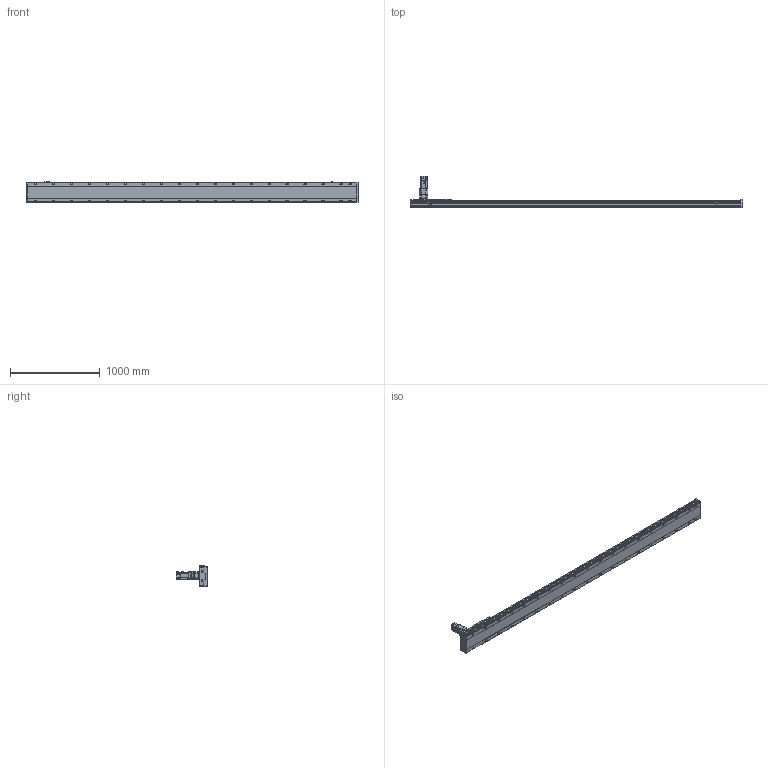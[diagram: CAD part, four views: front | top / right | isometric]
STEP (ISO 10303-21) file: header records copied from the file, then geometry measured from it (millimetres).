
FILE_DESCRIPTION(/* description */ ('STEP AP214'),/* implementation_level */ '2;1');
FILE_NAME(/* name */ 'SHS22A-L13-S3200-BC-T75-C1-N(0)',/* time_stamp */ '2022-06-15T02:28:01+02:00',/* author */ ('License CC BY-ND 4.0'),/* organization */ ('CADENAS'),/* preprocessor_version */ 'ST-DEVELOPER v18.102',/* originating_system */ 'PARTsolutions',/* authorisation */ ' ');
FILE_SCHEMA (('AUTOMOTIVE_DESIGN {1 0 10303 214 3 1 1}'));
Length unit declared in the file: millimetre
Products named in the file (7): SHS22A-L13-S3200-BC-T75-C1-N(0); PSC140-sensor; SHS22A-S3200_body2; T75-p1; SHS22A-S3200_body3; SHS22A-S3200_slider; SHS22A-L13-S3200-BC-T75-C1(0)_body
Assembly tree (13 placements, depth 2):
  SHS22A-L13-S3200-BC-T75-C1-N(0)
    PSC140-sensor  x3
    SHS22A-S3200_body2  x6
    T75-p1
    SHS22A-S3200_body3
    SHS22A-S3200_slider
    SHS22A-L13-S3200-BC-T75-C1(0)_body
Bounding box: 3694 x 350.8 x 238.4 mm (x, y, z)
Volume: 40107945.5 mm3; surface area: 4127155.7 mm2
Topology: 13 solids, 13 shells, 1929 faces, 4947 edges, 3238 vertices
Faces by surface type: plane 1356, cylinder 461, cone 103, torus 9
Full cylindrical faces by diameter (mm): 2.8 x3, 4.2 x2, 4.6 x3, 4.917 x4, 5 x4, 5.6 x24, 6 x31, 6.6 x24, 6.647 x8, 6.8 x9, 7.75 x6, 8 x3, 8.376 x38, 8.5 x38, 10 x4, 11 x4, 12 x24, 14 x38, 22 x1, 24.1 x1, 28 x1, 28.2 x1, 28.8 x1, 48.542 x1, 68 x1, 70 x1, 78 x1, 80 x2
Entity records: 32531 total; most frequent: CARTESIAN_POINT 5867, DIRECTION 5513, ORIENTED_EDGE 4944, EDGE_CURVE 2472, AXIS2_PLACEMENT_3D 1966, VERTEX_POINT 1790, FACE_BOUND 1734, EDGE_LOOP 1733
